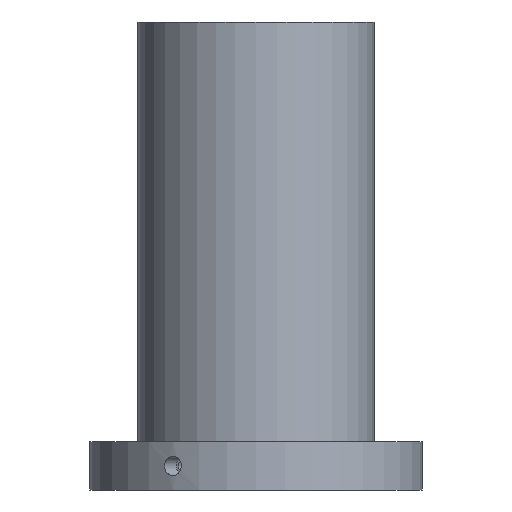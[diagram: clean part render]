
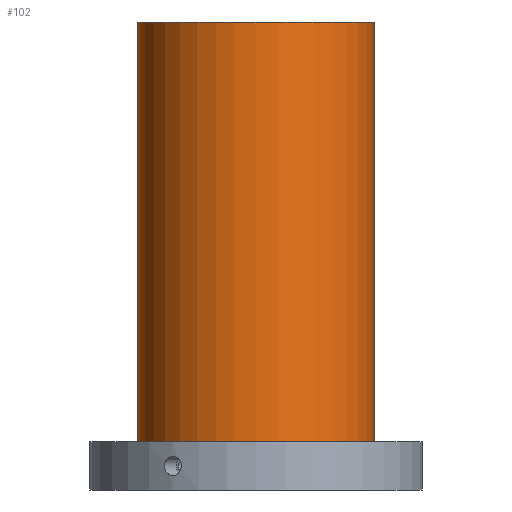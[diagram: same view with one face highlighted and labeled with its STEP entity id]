
A CAD part, front view. The second image highlights one B-rep face of the part: STEP entity #102.
In plain terms, the highlighted cylindrical face has radius 49 mm (diameter 98 mm), a full revolution.
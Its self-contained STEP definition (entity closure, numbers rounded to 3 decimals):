
#102=ADVANCED_FACE('',(#136,#137),#119,.T.);
#119=CYLINDRICAL_SURFACE('',#371,49.);
#136=FACE_BOUND('',#188,.T.);
#137=FACE_BOUND('',#189,.T.);
#188=EDGE_LOOP('',(#240));
#189=EDGE_LOOP('',(#241));
#240=ORIENTED_EDGE('',*,*,#318,.F.);
#241=ORIENTED_EDGE('',*,*,#319,.T.);
#292=VERTEX_POINT('',#557);
#293=VERTEX_POINT('',#559);
#318=EDGE_CURVE('',#292,#292,#343,.T.);
#319=EDGE_CURVE('',#293,#293,#344,.T.);
#343=CIRCLE('',#369,49.);
#344=CIRCLE('',#370,49.);
#369=AXIS2_PLACEMENT_3D('',#556,#415,#416);
#370=AXIS2_PLACEMENT_3D('',#558,#417,#418);
#371=AXIS2_PLACEMENT_3D('',#560,#419,#420);
#415=DIRECTION('',(0.,0.,-1.));
#416=DIRECTION('',(1.,0.,0.));
#417=DIRECTION('',(0.,0.,-1.));
#418=DIRECTION('',(1.,0.,0.));
#419=DIRECTION('',(0.,0.,-1.));
#420=DIRECTION('',(-1.,0.,0.));
#556=CARTESIAN_POINT('',(0.,0.,20.));
#557=CARTESIAN_POINT('',(49.,0.,20.));
#558=CARTESIAN_POINT('',(0.,0.,194.));
#559=CARTESIAN_POINT('',(49.,0.,194.));
#560=CARTESIAN_POINT('',(0.,0.,194.));
